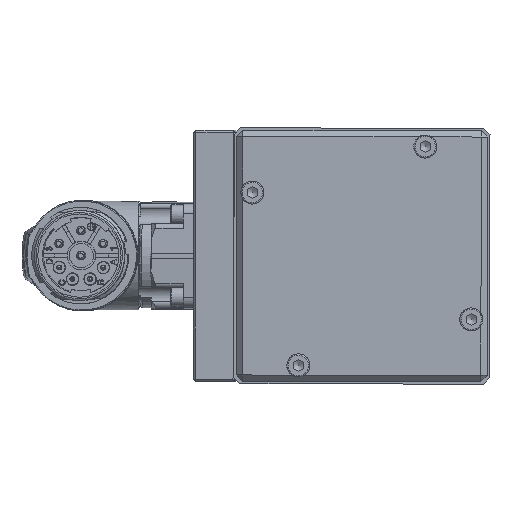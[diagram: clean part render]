
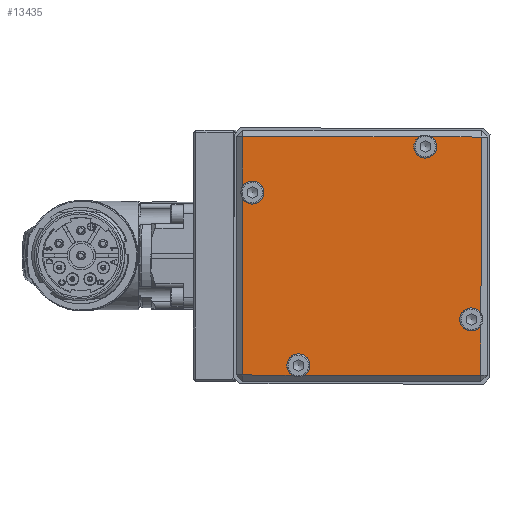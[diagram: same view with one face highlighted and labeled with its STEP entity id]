
A CAD part, left-side view. The second image highlights one B-rep face of the part: STEP entity #13435.
In plain terms, the highlighted planar face has unit normal (-1, 0, 0).
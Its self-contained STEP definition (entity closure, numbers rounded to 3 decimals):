
#1162=LINE('',#19672,#2269);
#1163=LINE('',#19674,#2270);
#1164=LINE('',#19678,#2271);
#1165=LINE('',#19679,#2272);
#1166=LINE('',#19681,#2273);
#1167=LINE('',#19682,#2274);
#1168=LINE('',#19684,#2275);
#1169=LINE('',#19686,#2276);
#2269=VECTOR('',#16176,42.122);
#2270=VECTOR('',#16177,11.872);
#2271=VECTOR('',#16180,42.122);
#2272=VECTOR('',#16181,11.872);
#2273=VECTOR('',#16182,42.122);
#2274=VECTOR('',#16183,11.872);
#2275=VECTOR('',#16184,42.122);
#2276=VECTOR('',#16185,11.872);
#3115=PLANE('',#14290);
#3746=FACE_OUTER_BOUND('',#4564,.T.);
#4564=EDGE_LOOP('',(#9696,#9697,#9698,#9699,#9700,#9701,#9702,#9703,#9704,
#9705,#9706,#9707));
#5295=CIRCLE('',#14283,2.75);
#5297=CIRCLE('',#14288,2.75);
#5298=CIRCLE('',#14291,2.75);
#5299=CIRCLE('',#14292,2.75);
#5941=VERTEX_POINT('',#19655);
#5942=VERTEX_POINT('',#19657);
#5945=VERTEX_POINT('',#19664);
#5946=VERTEX_POINT('',#19666);
#5947=VERTEX_POINT('',#19670);
#5948=VERTEX_POINT('',#19671);
#5949=VERTEX_POINT('',#19673);
#5950=VERTEX_POINT('',#19675);
#5951=VERTEX_POINT('',#19677);
#5952=VERTEX_POINT('',#19680);
#5953=VERTEX_POINT('',#19683);
#5954=VERTEX_POINT('',#19685);
#7357=EDGE_CURVE('',#5942,#5941,#5295,.T.);
#7361=EDGE_CURVE('',#5946,#5945,#5297,.T.);
#7363=EDGE_CURVE('',#5947,#5948,#1162,.T.);
#7364=EDGE_CURVE('',#5949,#5947,#1163,.T.);
#7365=EDGE_CURVE('',#5949,#5950,#5298,.T.);
#7366=EDGE_CURVE('',#5951,#5950,#1164,.T.);
#7367=EDGE_CURVE('',#5946,#5951,#1165,.T.);
#7368=EDGE_CURVE('',#5952,#5945,#1166,.T.);
#7369=EDGE_CURVE('',#5942,#5952,#1167,.T.);
#7370=EDGE_CURVE('',#5953,#5941,#1168,.T.);
#7371=EDGE_CURVE('',#5954,#5953,#1169,.T.);
#7372=EDGE_CURVE('',#5954,#5948,#5299,.T.);
#9696=ORIENTED_EDGE('',*,*,#7363,.F.);
#9697=ORIENTED_EDGE('',*,*,#7364,.F.);
#9698=ORIENTED_EDGE('',*,*,#7365,.T.);
#9699=ORIENTED_EDGE('',*,*,#7366,.F.);
#9700=ORIENTED_EDGE('',*,*,#7367,.F.);
#9701=ORIENTED_EDGE('',*,*,#7361,.T.);
#9702=ORIENTED_EDGE('',*,*,#7368,.F.);
#9703=ORIENTED_EDGE('',*,*,#7369,.F.);
#9704=ORIENTED_EDGE('',*,*,#7357,.T.);
#9705=ORIENTED_EDGE('',*,*,#7370,.F.);
#9706=ORIENTED_EDGE('',*,*,#7371,.F.);
#9707=ORIENTED_EDGE('',*,*,#7372,.T.);
#13435=ADVANCED_FACE('',(#3746),#3115,.T.);
#14283=AXIS2_PLACEMENT_3D('',#19658,#16160,#16161);
#14288=AXIS2_PLACEMENT_3D('',#19667,#16170,#16171);
#14290=AXIS2_PLACEMENT_3D('',#19669,#16174,#16175);
#14291=AXIS2_PLACEMENT_3D('',#19676,#16178,#16179);
#14292=AXIS2_PLACEMENT_3D('',#19687,#16186,#16187);
#16160=DIRECTION('center_axis',(1.,0.,0.));
#16161=DIRECTION('ref_axis',(0.,-1.,-0.002));
#16170=DIRECTION('center_axis',(1.,0.,0.));
#16171=DIRECTION('ref_axis',(0.,0.002,
-1.));
#16174=DIRECTION('center_axis',(-1.,0.,0.));
#16175=DIRECTION('ref_axis',(0.,-0.002,1.));
#16176=DIRECTION('',(0.,-0.002,1.));
#16177=DIRECTION('',(0.,1.,0.002));
#16178=DIRECTION('center_axis',(1.,0.,0.));
#16179=DIRECTION('ref_axis',(0.,1.,0.002));
#16180=DIRECTION('',(0.,1.,0.002));
#16181=DIRECTION('',(0.,0.002,-1.));
#16182=DIRECTION('',(0.,0.002,-1.));
#16183=DIRECTION('',(0.,-1.,-0.002));
#16184=DIRECTION('',(0.,-1.,-0.002));
#16185=DIRECTION('',(0.,-0.002,1.));
#16186=DIRECTION('center_axis',(1.,0.,0.));
#16187=DIRECTION('ref_axis',(0.,-0.002,
1.));
#19655=CARTESIAN_POINT('',(-146.5,-13.675,28.475));
#19657=CARTESIAN_POINT('',(-146.5,-16.681,28.469));
#19658=CARTESIAN_POINT('Origin',(-146.5,-15.174,26.169));
#19664=CARTESIAN_POINT('',(-146.5,-28.475,-13.675));
#19666=CARTESIAN_POINT('',(-146.5,-28.469,-16.681));
#19667=CARTESIAN_POINT('Origin',(-146.5,-26.169,-15.174));
#19669=CARTESIAN_POINT('Origin',(-146.5,0.,0.));
#19670=CARTESIAN_POINT('',(-146.5,28.553,-28.447));
#19671=CARTESIAN_POINT('',(-146.5,28.475,13.675));
#19672=CARTESIAN_POINT('',(-146.5,28.528,-14.947));
#19673=CARTESIAN_POINT('',(-146.5,16.681,-28.469));
#19674=CARTESIAN_POINT('',(-146.5,-14.947,-28.528));
#19675=CARTESIAN_POINT('',(-146.5,13.675,-28.475));
#19676=CARTESIAN_POINT('Origin',(-146.5,15.174,-26.169));
#19677=CARTESIAN_POINT('',(-146.5,-28.447,-28.553));
#19678=CARTESIAN_POINT('',(-146.5,-14.947,-28.528));
#19679=CARTESIAN_POINT('',(-146.5,-28.528,14.947));
#19680=CARTESIAN_POINT('',(-146.5,-28.553,28.447));
#19681=CARTESIAN_POINT('',(-146.5,-28.528,14.947));
#19682=CARTESIAN_POINT('',(-146.5,14.947,28.528));
#19683=CARTESIAN_POINT('',(-146.5,28.447,28.553));
#19684=CARTESIAN_POINT('',(-146.5,14.947,28.528));
#19685=CARTESIAN_POINT('',(-146.5,28.469,16.681));
#19686=CARTESIAN_POINT('',(-146.5,28.528,-14.947));
#19687=CARTESIAN_POINT('Origin',(-146.5,26.169,15.174));
